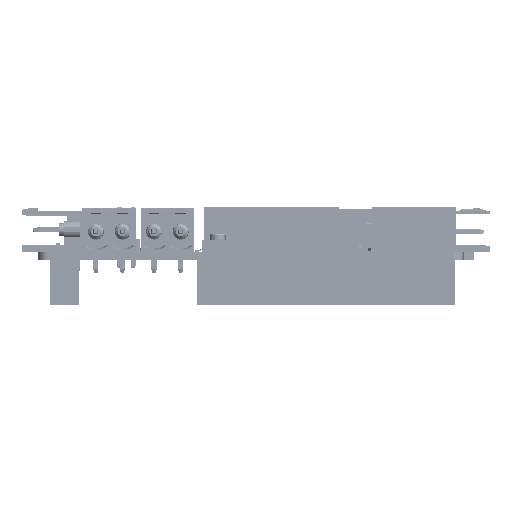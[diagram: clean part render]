
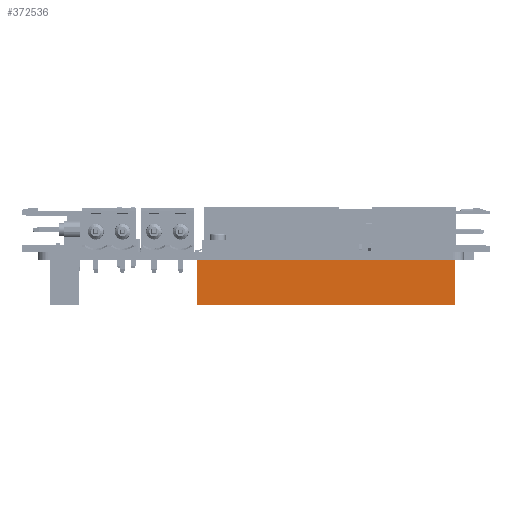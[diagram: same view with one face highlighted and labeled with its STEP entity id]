
A CAD part, left-side view. The second image highlights one B-rep face of the part: STEP entity #372536.
In plain terms, the highlighted planar face has unit normal (-1, 0, 0) as drawn and (0, 1, 0) by its records, which use the part's own axes.
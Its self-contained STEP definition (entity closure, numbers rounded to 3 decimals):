
#371215 = VERTEX_POINT('',#371216);
#371216 = CARTESIAN_POINT('',(24.33,2.505,
    8.5));
#371222 = EDGE_CURVE('',#371215,#371223,#371225,.T.);
#371223 = VERTEX_POINT('',#371224);
#371224 = CARTESIAN_POINT('',(-24.33,2.505,
    8.5));
#371225 = LINE('',#371226,#371227);
#371226 = CARTESIAN_POINT('',(-24.33,2.505,
    8.5));
#371227 = VECTOR('',#371228,1.);
#371228 = DIRECTION('',(-1.,-0.,-0.));
#372517 = VERTEX_POINT('',#372518);
#372518 = CARTESIAN_POINT('',(24.33,2.505,
    0.));
#372524 = EDGE_CURVE('',#371215,#372517,#372525,.T.);
#372525 = LINE('',#372526,#372527);
#372526 = CARTESIAN_POINT('',(24.33,2.505,
    8.5));
#372527 = VECTOR('',#372528,1.);
#372528 = DIRECTION('',(-0.,-0.,-1.));
#372536 = ADVANCED_FACE('',(#372537),#372555,.F.);
#372537 = FACE_BOUND('',#372538,.T.);
#372538 = EDGE_LOOP('',(#372539,#372547,#372553,#372554));
#372539 = ORIENTED_EDGE('',*,*,#372540,.T.);
#372540 = EDGE_CURVE('',#372517,#372541,#372543,.T.);
#372541 = VERTEX_POINT('',#372542);
#372542 = CARTESIAN_POINT('',(-24.33,2.505,
    0.));
#372543 = LINE('',#372544,#372545);
#372544 = CARTESIAN_POINT('',(-24.33,2.505,
    0.));
#372545 = VECTOR('',#372546,1.);
#372546 = DIRECTION('',(-1.,-0.,-0.));
#372547 = ORIENTED_EDGE('',*,*,#372548,.F.);
#372548 = EDGE_CURVE('',#371223,#372541,#372549,.T.);
#372549 = LINE('',#372550,#372551);
#372550 = CARTESIAN_POINT('',(-24.33,2.505,
    8.5));
#372551 = VECTOR('',#372552,1.);
#372552 = DIRECTION('',(-0.,-0.,-1.));
#372553 = ORIENTED_EDGE('',*,*,#371222,.F.);
#372554 = ORIENTED_EDGE('',*,*,#372524,.T.);
#372555 = PLANE('',#372556);
#372556 = AXIS2_PLACEMENT_3D('',#372557,#372558,#372559);
#372557 = CARTESIAN_POINT('',(-24.33,2.505,
    8.5));
#372558 = DIRECTION('',(0.,-1.,0.));
#372559 = DIRECTION('',(0.,0.,-1.));
